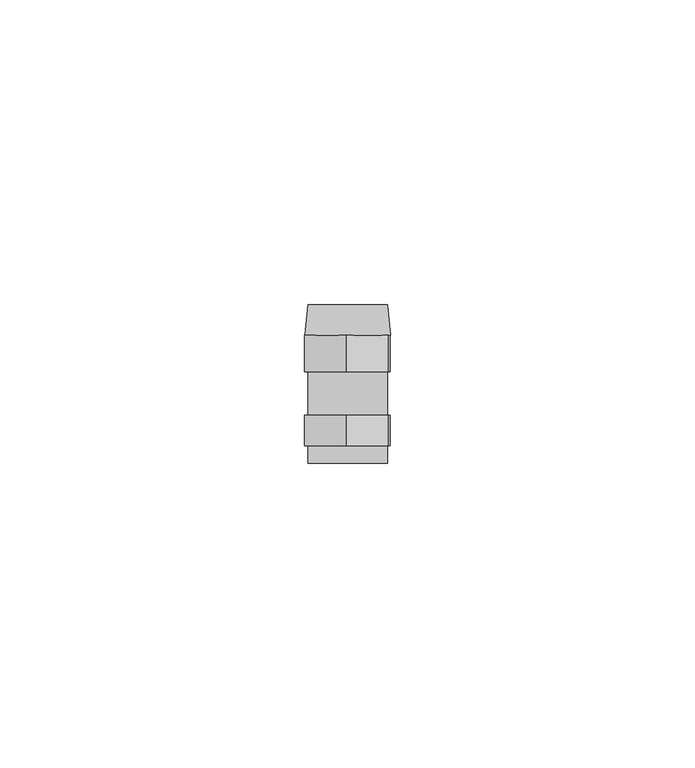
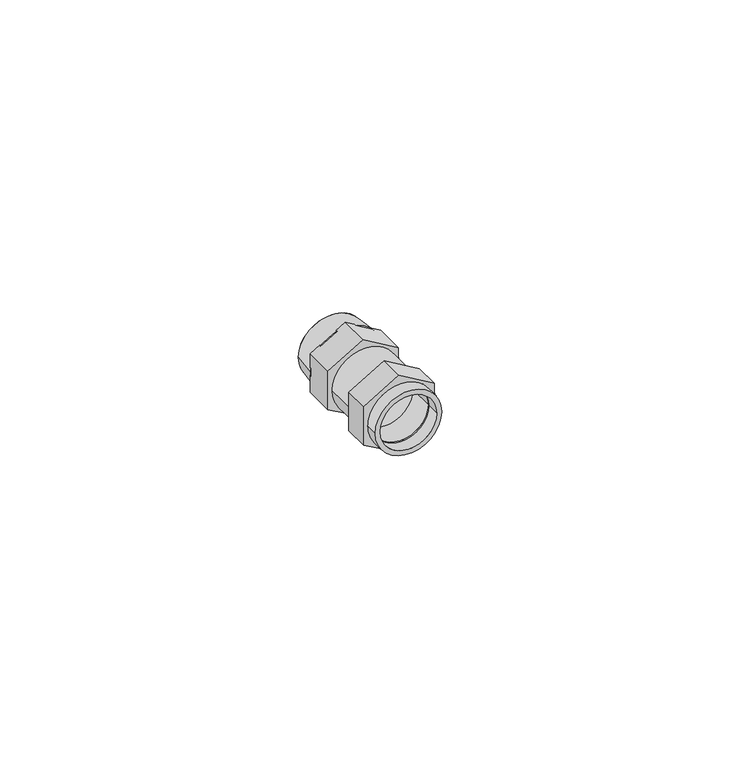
"""IFC4 building model written with IfcOpenShell, lengths in millimetres: cable carrier fitting geometry, Сальник_PGL_D_11-48_IP54 : Сальник PG 7 диаметр проводника 3,5-6мм IP54."""

from ifc_helpers import new_model, si_unit, point, frame, frame_2d, origin, place, context, project, spatial, polyline, circle_curve, trimmed, segment, composite_curve, outline, extrude, source, transform, mapped, element, save
from ifc_brep_helpers import plane_surface, revolved_surface, advanced_brep


def cable_carrier_fitting_5630c3e8(model_context):
    return source(origin(), model_context, "Body", "SolidModel", [
        advanced_brep(
        [(-5.4094864, 0.0, 0.0057257), (-5.4094864, -5.0, 0.0057257), (5.5905136, -5.0, 0.0057257), (5.5905136, 0.0, 0.0057257), (-6.9010286, -5.0, 0.0), (7.0989714, -5.0, 0.0), (-6.4010286, 0.0, 0.0), (6.5989714, 0.0, 0.0)],
        [
            (0, 1),
            (1, 2, circle_curve(frame((0.0905136, -5.0, 0.0057257), z_axis=(0.0, -1.0, 0.0), x_axis=(1.0, 0.0, 0.0)), 5.5)),
            (2, 3),
            (3, 0, circle_curve(frame((0.0905136, 0.0, 0.0057257), z_axis=(0.0, 1.0, 0.0), x_axis=(1.0, 0.0, 0.0)), 5.5)),
            (0, 3, circle_curve(frame((0.0905136, 0.0, 0.0057257), z_axis=(0.0, 1.0, 0.0), x_axis=(1.0, 0.0, 0.0)), 5.5)),
            (2, 1, circle_curve(frame((0.0905136, -5.0, 0.0057257), z_axis=(0.0, -1.0, 0.0), x_axis=(1.0, 0.0, 0.0)), 5.5)),
            (4, 5, circle_curve(frame((0.0989714, -5.0, 0.0), z_axis=(0.0, -1.0, 0.0), x_axis=(-1.0, 0.0, 0.0)), 7.0)),
            (5, 4, circle_curve(frame((0.0989714, -5.0, 0.0), z_axis=(0.0, -1.0, 0.0), x_axis=(1.0, 0.0, 0.0)), 7.0)),
            (6, 7, circle_curve(frame((0.0989714, 0.0, 0.0), z_axis=(0.0, 1.0, 0.0), x_axis=(1.0, 0.0, 0.0)), 6.5)),
            (7, 6, circle_curve(frame((0.0989714, 0.0, 0.0), z_axis=(0.0, 1.0, 0.0), x_axis=(-1.0, 0.0, 0.0)), 6.5)),
            (4, 6),
            (7, 5),
        ],
        [
            revolved_surface(polyline([(5.5905136, -5.0, 0.0057257), (5.5905136, 0.0, 0.0057257)]), (0.0905136, 9.180646, 0.0057257), (0.0, -1.0, 0.0)),
            plane_surface(frame((0.0989714, -5.0, 0.0), z_axis=(0.0, -1.0, 0.0), x_axis=(0.0, 0.0, -1.0))),
            plane_surface(frame((0.0989714, 0.0, 0.0), z_axis=(0.0, 1.0, 0.0), x_axis=(0.0, 0.0, -1.0))),
            revolved_surface(polyline([(6.5989714, 0.0, 0.0), (7.0989714, -5.0, 0.0)]), (0.0989714, 65.0, 0.0), (0.0, -1.0, 0.0)),
            revolved_surface(polyline([(-6.4010286, 0.0, 0.0), (-6.9010286, -5.0, 0.0)]), (0.0989714, 65.0, 0.0), (0.0, -1.0, 0.0)),
        ],
        [
            (0, [[1, 2, 3, 4]]),
            (0, [[-1, 5, -3, 6]]),
            (1, [[7, 8], [-2, -6]]),
            (2, [[9, 10], [-4, -5]]),
            (3, [[-7, 11, -10, 12]]),
            (4, [[-8, -12, -9, -11]]),
        ],
    ),
        extrude(outline(polyline([(-3.994212, 7.0), (4.0028255, 6.7823048), (8.0678048, -0.1079742), (4.005788, -7.0), (-3.994212, -7.0), (-7.8671953, 0.0), (-3.994212, 7.0)]), holes=[composite_curve([segment(trimmed(circle_curve(frame_2d((0.0057257, 0.0905136)), 5.5), [point((0.0057257, 5.5905136))], [point((0.0057257, -5.4094864))], True, "CARTESIAN"), True, "CONTINUOUS"), segment(trimmed(circle_curve(frame_2d((0.0057257, 0.0905136)), 5.5), [point((0.0057257, -5.4094864))], [point((0.0057257, 5.5905136))], True, "CARTESIAN"), True, "CONTINUOUS")], self_intersect=False)]), frame((0.0, -11.0, 0.0), z_axis=(0.0, 1.0, 0.0), x_axis=(0.0, 0.0, 1.0)), (0.0, 0.0, 1.0), 6.0),
        extrude(outline(polyline([(-3.994212, 7.0), (4.0028255, 6.7823048), (8.0678048, -0.1079742), (4.005788, -7.0), (-3.994212, -7.0), (-7.8671953, 0.0), (-3.994212, 7.0)]), holes=[composite_curve([segment(trimmed(circle_curve(frame_2d((0.0057257, 0.0905136)), 5.5), [point((0.0057257, 5.5905136))], [point((0.0057257, -5.4094864))], True, "CARTESIAN"), True, "CONTINUOUS"), segment(trimmed(circle_curve(frame_2d((0.0057257, 0.0905136)), 5.5), [point((0.0057257, -5.4094864))], [point((0.0057257, 5.5905136))], True, "CARTESIAN"), True, "CONTINUOUS")], self_intersect=False)]), frame((0.0, -23.1018563, 0.0), z_axis=(0.0, 1.0, 0.0), x_axis=(0.0, 0.0, 1.0)), (0.0, 0.0, 1.0), 5.0),
        extrude(outline(composite_curve([segment(trimmed(circle_curve(frame_2d((0.0032191, 0.0900025)), 6.5), [point((0.0032191, -6.4099975))], [point((0.0032191, 6.5900025))], False, "CARTESIAN"), True, "CONTINUOUS"), segment(trimmed(circle_curve(frame_2d((0.0032191, 0.0900025)), 6.5), [point((0.0032191, 6.5900025))], [point((0.0032191, -6.4099975))], False, "CARTESIAN"), True, "CONTINUOUS")], self_intersect=False), holes=[composite_curve([segment(trimmed(circle_curve(frame_2d((0.0057257, 0.0905136)), 5.5), [point((0.0057257, 5.5905136))], [point((0.0057257, -5.4094864))], True, "CARTESIAN"), True, "CONTINUOUS"), segment(trimmed(circle_curve(frame_2d((0.0057257, 0.0905136)), 5.5), [point((0.0057257, -5.4094864))], [point((0.0057257, 5.5905136))], True, "CARTESIAN"), True, "CONTINUOUS")], self_intersect=False)]), frame((0.0, -26.0, 0.0), z_axis=(0.0, 1.0, 0.0), x_axis=(0.0, 0.0, 1.0)), (0.0, 0.0, 1.0), 26.0),
    ])


if __name__ == "__main__":
    model = new_model("IFC4")
    model_context = context("Model", 3, world=origin())
    ifc_project = project(units=[si_unit("LENGTHUNIT", "METRE", prefix="MILLI")], contexts=[model_context])
    site = spatial("IfcSite", under=ifc_project)
    building = spatial("IfcBuilding", under=site)
    placement = place(None, origin())
    cable_carrier_fitting_shape = cable_carrier_fitting_5630c3e8(model_context)
    element("IfcCableCarrierFitting", 1, ObjectType="Сальник_PGL_D_11-48_IP54 : Сальник PG 7 диаметр проводника 3,5-6мм IP54", at=placement, inside=building, context=model_context, shape_type="MappedRepresentation", body=[
        mapped(cable_carrier_fitting_shape, transform((0.0, 0.0, 0.0), x_axis=(1.0, 0.0, 0.0), y_axis=(0.0, 1.0, 0.0), z_axis=(0.0, 0.0, 1.0))),
    ])
    save(model, "model.ifc")
